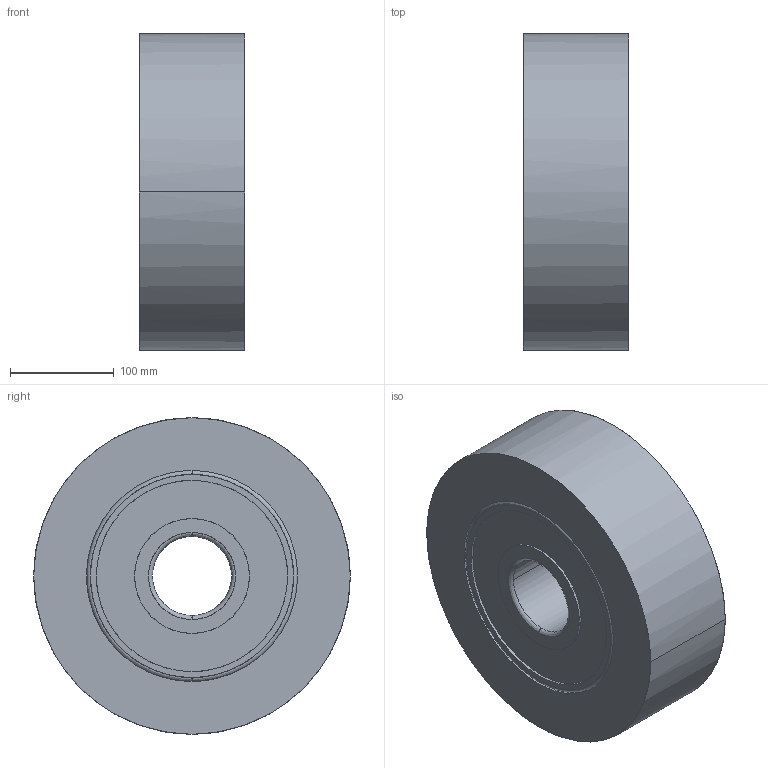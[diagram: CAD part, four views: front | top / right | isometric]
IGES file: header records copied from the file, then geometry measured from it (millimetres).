
Global section: native system: Kubotek KeyCreator; preprocessor: KCM Version 1.1.1442.0; author: KeyCreator User; organization: Self; date: 20170714.084908; units: inch
Bounding box: 101.6 x 304.8 x 304.8 mm (x, y, z)
Surface area: 270050.5 mm2 (no closed solid volume)
Topology: 0 solids, 0 shells, 32 faces, 208 edges, 208 vertices
Faces by surface type: bspline 32
